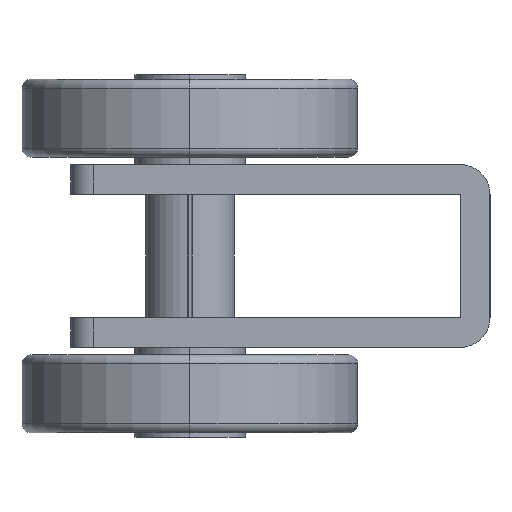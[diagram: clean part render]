
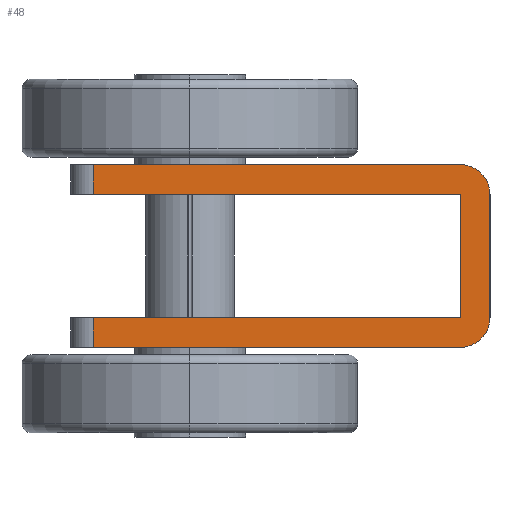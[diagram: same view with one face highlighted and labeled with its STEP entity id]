
A CAD part, left-side view. The second image highlights one B-rep face of the part: STEP entity #48.
In plain terms, the highlighted planar face has unit normal (-1, 0, 0).
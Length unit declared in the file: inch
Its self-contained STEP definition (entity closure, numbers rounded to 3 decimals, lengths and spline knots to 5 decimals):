
#48 = ADVANCED_FACE ( 'NONE', ( #2429 ), #3890, .T. ) ;
#87 = EDGE_CURVE ( 'NONE', #1445, #424, #6349, .T. ) ;
#220 = AXIS2_PLACEMENT_3D ( 'NONE', #754, #5765, #7317 ) ;
#295 = VECTOR ( 'NONE', #4293, 39.37008 ) ;
#394 = EDGE_CURVE ( 'NONE', #6031, #5306, #6868, .T. ) ;
#424 = VERTEX_POINT ( 'NONE', #6024 ) ;
#450 = CARTESIAN_POINT ( 'NONE',  ( -1.5625, -0.74233, -0.2185 ) ) ;
#477 = EDGE_CURVE ( 'NONE', #1879, #3635, #531, .T. ) ;
#492 = DIRECTION ( 'NONE',  ( 0., 1., 0. ) ) ;
#531 = LINE ( 'NONE', #9065, #8229 ) ;
#702 = CIRCLE ( 'NONE', #6998, 0.10512 ) ;
#754 = CARTESIAN_POINT ( 'NONE',  ( -1.5625, -0.63722, -0.2185 ) ) ;
#969 = CARTESIAN_POINT ( 'NONE',  ( -1.5625, -0.63722, -0.2185 ) ) ;
#980 = VECTOR ( 'NONE', #7260, 39.37008 ) ;
#1445 = VERTEX_POINT ( 'NONE', #6187 ) ;
#1523 = VERTEX_POINT ( 'NONE', #969 ) ;
#1622 = VECTOR ( 'NONE', #6311, 39.37008 ) ;
#1764 = CARTESIAN_POINT ( 'NONE',  ( -1.5625, -0.63722, 0.2185 ) ) ;
#1784 = AXIS2_PLACEMENT_3D ( 'NONE', #1786, #4076, #5668 ) ;
#1786 = CARTESIAN_POINT ( 'NONE',  ( -1.5625, -0.63722, -0.2185 ) ) ;
#1831 = CARTESIAN_POINT ( 'NONE',  ( -1.5625, -0.63722, 0.32362 ) ) ;
#1851 = EDGE_CURVE ( 'NONE', #4009, #1523, #2790, .T. ) ;
#1879 = VERTEX_POINT ( 'NONE', #5089 ) ;
#2355 = CARTESIAN_POINT ( 'NONE',  ( -1.5625, -0.74233, 0.2185 ) ) ;
#2429 = FACE_OUTER_BOUND ( 'NONE', #4374, .T. ) ;
#2564 = DIRECTION ( 'NONE',  ( 0., 0., -1. ) ) ;
#2578 = CARTESIAN_POINT ( 'NONE',  ( -1.5625, -0.74233, -0.2185 ) ) ;
#2720 = EDGE_CURVE ( 'NONE', #4009, #3635, #5816, .T. ) ;
#2742 = EDGE_CURVE ( 'NONE', #5306, #1879, #3210, .T. ) ;
#2790 = LINE ( 'NONE', #2843, #295 ) ;
#2808 = ORIENTED_EDGE ( 'NONE', *, *, #477, .F. ) ;
#2843 = CARTESIAN_POINT ( 'NONE',  ( -1.5625, -0.63722, -0.2185 ) ) ;
#2862 = ORIENTED_EDGE ( 'NONE', *, *, #5749, .T. ) ;
#2940 = ORIENTED_EDGE ( 'NONE', *, *, #7393, .F. ) ;
#2970 = CARTESIAN_POINT ( 'NONE',  ( -1.5625, -0.63722, 0.2185 ) ) ;
#3032 = CARTESIAN_POINT ( 'NONE',  ( -1.5625, 0.66359, -0.32362 ) ) ;
#3053 = LINE ( 'NONE', #2970, #4791 ) ;
#3178 = CARTESIAN_POINT ( 'NONE',  ( -1.5625, 0.66359, -0.2185 ) ) ;
#3210 = CIRCLE ( 'NONE', #220, 0.10512 ) ;
#3305 = DIRECTION ( 'NONE',  ( 0., 0., -1. ) ) ;
#3409 = CARTESIAN_POINT ( 'NONE',  ( -1.5625, 0.74233, 0.2185 ) ) ;
#3516 = ORIENTED_EDGE ( 'NONE', *, *, #394, .F. ) ;
#3635 = VERTEX_POINT ( 'NONE', #5366 ) ;
#3890 = PLANE ( 'NONE',  #1784 ) ;
#4009 = VERTEX_POINT ( 'NONE', #3178 ) ;
#4076 = DIRECTION ( 'NONE',  ( -1., 0., 0. ) ) ;
#4293 = DIRECTION ( 'NONE',  ( 0., -1., 0. ) ) ;
#4374 = EDGE_LOOP ( 'NONE', ( #8953, #2862, #9093, #4708, #6486, #7193, #2808, #6083, #3516, #2940 ) ) ;
#4620 = DIRECTION ( 'NONE',  ( 1., 0., 0. ) ) ;
#4672 = CARTESIAN_POINT ( 'NONE',  ( -1.5625, 0.66359, 0.2185 ) ) ;
#4708 = ORIENTED_EDGE ( 'NONE', *, *, #8456, .F. ) ;
#4791 = VECTOR ( 'NONE', #8643, 39.37008 ) ;
#5089 = CARTESIAN_POINT ( 'NONE',  ( -1.5625, -0.63722, -0.32362 ) ) ;
#5306 = VERTEX_POINT ( 'NONE', #2578 ) ;
#5327 = DIRECTION ( 'NONE',  ( 0., 0., -1. ) ) ;
#5366 = CARTESIAN_POINT ( 'NONE',  ( -1.5625, 0.66359, -0.32362 ) ) ;
#5526 = VECTOR ( 'NONE', #3305, 39.37008 ) ;
#5664 = VECTOR ( 'NONE', #5327, 39.37008 ) ;
#5668 = DIRECTION ( 'NONE',  ( 0., 0., 1. ) ) ;
#5749 = EDGE_CURVE ( 'NONE', #7525, #424, #8924, .T. ) ;
#5765 = DIRECTION ( 'NONE',  ( 1., 0., 0. ) ) ;
#5816 = LINE ( 'NONE', #3032, #980 ) ;
#6024 = CARTESIAN_POINT ( 'NONE',  ( -1.5625, 0.66359, 0.2185 ) ) ;
#6031 = VERTEX_POINT ( 'NONE', #2355 ) ;
#6083 = ORIENTED_EDGE ( 'NONE', *, *, #2742, .F. ) ;
#6187 = CARTESIAN_POINT ( 'NONE',  ( -1.5625, -0.63722, 0.2185 ) ) ;
#6217 = CARTESIAN_POINT ( 'NONE',  ( -1.5625, -0.63722, 0.32362 ) ) ;
#6311 = DIRECTION ( 'NONE',  ( 0., 1., 0. ) ) ;
#6349 = LINE ( 'NONE', #3409, #1622 ) ;
#6486 = ORIENTED_EDGE ( 'NONE', *, *, #1851, .F. ) ;
#6561 = VERTEX_POINT ( 'NONE', #6217 ) ;
#6571 = EDGE_CURVE ( 'NONE', #7525, #6561, #7547, .T. ) ;
#6868 = LINE ( 'NONE', #450, #5526 ) ;
#6998 = AXIS2_PLACEMENT_3D ( 'NONE', #1764, #4620, #2564 ) ;
#7193 = ORIENTED_EDGE ( 'NONE', *, *, #2720, .T. ) ;
#7260 = DIRECTION ( 'NONE',  ( 0., 0., -1. ) ) ;
#7317 = DIRECTION ( 'NONE',  ( 0., 0., 1. ) ) ;
#7393 = EDGE_CURVE ( 'NONE', #6561, #6031, #702, .T. ) ;
#7525 = VERTEX_POINT ( 'NONE', #8545 ) ;
#7547 = LINE ( 'NONE', #1831, #8911 ) ;
#8229 = VECTOR ( 'NONE', #492, 39.37008 ) ;
#8343 = DIRECTION ( 'NONE',  ( 0., -1., 0. ) ) ;
#8456 = EDGE_CURVE ( 'NONE', #1523, #1445, #3053, .T. ) ;
#8545 = CARTESIAN_POINT ( 'NONE',  ( -1.5625, 0.66359, 0.32362 ) ) ;
#8643 = DIRECTION ( 'NONE',  ( 0., 0., 1. ) ) ;
#8911 = VECTOR ( 'NONE', #8343, 39.37008 ) ;
#8924 = LINE ( 'NONE', #4672, #5664 ) ;
#8953 = ORIENTED_EDGE ( 'NONE', *, *, #6571, .F. ) ;
#9065 = CARTESIAN_POINT ( 'NONE',  ( -1.5625, 0.74233, -0.32362 ) ) ;
#9093 = ORIENTED_EDGE ( 'NONE', *, *, #87, .F. ) ;
